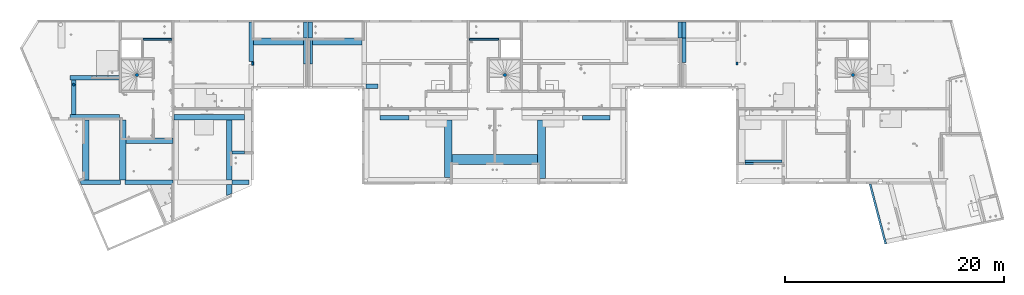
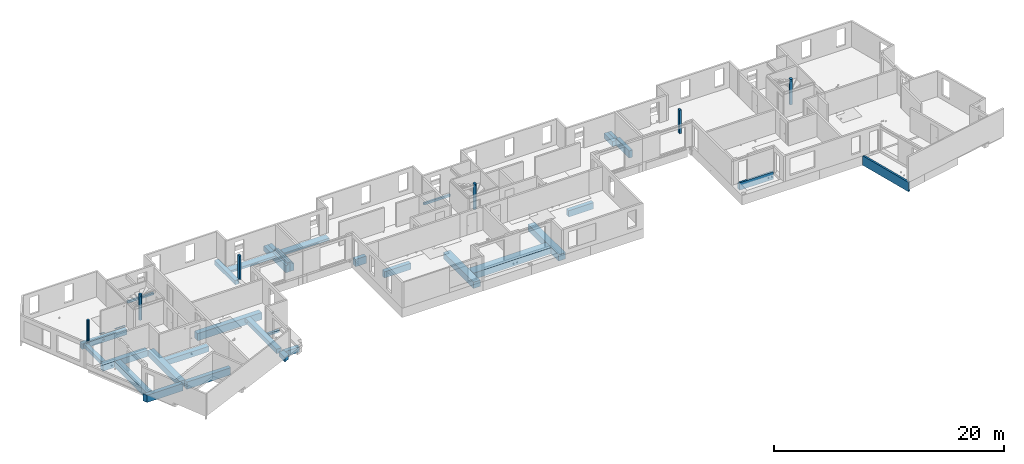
# One storey, part 1 of 34: 33 beams, 6 columns.
"""IFC2X3 building model written with IfcOpenShell, lengths in centimetres."""

from ifc_helpers import new_model, entity, si_unit, converted_unit, derived_unit, direction, frame, frame_2d, origin, origin_2d_with_axis, place, context, subcontext, project, spatial, polyline, rectangle, circle, outline, extrude, boolean, clip, halfspace, source, transform, mapped, material, material_list, type_object, type_shapes, element, save


model = new_model("IFC2X3")

# Units and contexts
model_context = context("Model", 3, precision=0.001, world=origin(), true_north=direction((6.12303176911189e-17, 1.0)))
body_context = subcontext(model_context, "Body", "Model", "MODEL_VIEW")
ifc_project = project(units=[si_unit("LENGTHUNIT", "METRE", prefix="CENTI"), si_unit("AREAUNIT", "SQUARE_METRE"), si_unit("VOLUMEUNIT", "CUBIC_METRE"), converted_unit("PLANEANGLEUNIT", "DEGREE", entity("IfcRatioMeasure", 0.0174532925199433), si_unit("PLANEANGLEUNIT", "RADIAN"), dimensions=[0, 0, 0, 0, 0, 0, 0]), si_unit("MASSUNIT", "GRAM", prefix="KILO"), derived_unit("MASSDENSITYUNIT", [(si_unit("MASSUNIT", "GRAM", prefix="KILO"), 1), (si_unit("LENGTHUNIT", "METRE"), -3)]), si_unit("TIMEUNIT", "SECOND"), si_unit("FREQUENCYUNIT", "HERTZ"), si_unit("THERMODYNAMICTEMPERATUREUNIT", "DEGREE_CELSIUS"), derived_unit("THERMALTRANSMITTANCEUNIT", [(si_unit("MASSUNIT", "GRAM", prefix="KILO"), 1), (si_unit("THERMODYNAMICTEMPERATUREUNIT", "KELVIN"), -1), (si_unit("TIMEUNIT", "SECOND"), -3)]), derived_unit("VOLUMETRICFLOWRATEUNIT", [(si_unit("LENGTHUNIT", "METRE"), 3), (si_unit("TIMEUNIT", "SECOND"), -1)]), si_unit("ELECTRICCURRENTUNIT", "AMPERE"), si_unit("ELECTRICVOLTAGEUNIT", "VOLT"), si_unit("POWERUNIT", "WATT"), si_unit("FORCEUNIT", "NEWTON"), si_unit("ILLUMINANCEUNIT", "LUX"), si_unit("LUMINOUSFLUXUNIT", "LUMEN"), si_unit("LUMINOUSINTENSITYUNIT", "CANDELA"), derived_unit("USERDEFINED", [(si_unit("MASSUNIT", "GRAM", prefix="KILO"), -1), (si_unit("LENGTHUNIT", "METRE"), -2), (si_unit("TIMEUNIT", "SECOND"), 3), (si_unit("LUMINOUSFLUXUNIT", "LUMEN"), 1)]), derived_unit("LINEARVELOCITYUNIT", [(si_unit("LENGTHUNIT", "METRE"), 1), (si_unit("TIMEUNIT", "SECOND"), -1)]), si_unit("PRESSUREUNIT", "PASCAL"), derived_unit("USERDEFINED", [(si_unit("LENGTHUNIT", "METRE"), -2), (si_unit("MASSUNIT", "GRAM", prefix="KILO"), 1), (si_unit("TIMEUNIT", "SECOND"), -2)])], contexts=[model_context])

# Site, building, storey
site_placement = place(None, origin())
site = spatial("IfcSite", under=ifc_project, at=site_placement, Name="Default", CompositionType="ELEMENT")
building_placement = place(site_placement, origin())
building = spatial("IfcBuilding", under=site, at=building_placement, Name="CAGE 03", CompositionType="ELEMENT")
storey_placement = place(building_placement, frame((0.0, 0.0, 340.0)))
storey = spatial("IfcBuildingStorey", under=building, at=storey_placement, Name="R+1", CompositionType="ELEMENT", Elevation=340.0)

# Columns
ifc_material_1 = material(Name="Béton, C25/30")
column_type_1 = type_object("IfcColumnType", Name="Ø25", PredefinedType="COLUMN", material=ifc_material_1)
shared_shape_1 = source(origin(), body_context, "Body", "SweptSolid", [
    extrude(circle(Radius=12.5000000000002, at=frame_2d((-6.00371824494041e-26, -8.66293703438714e-13), x_axis=(1.0, 0.0))), frame((3236.36582014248, 4704.16066607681, 560.0), z_axis=(0.0, 0.0, 1.0), x_axis=(-1.0, 0.0, 0.0)), (0.0, 0.0, 1.0), 30.0000000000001),
    extrude(circle(Radius=12.5000000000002, at=frame_2d((-6.00371824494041e-26, -8.66293703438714e-13), x_axis=(1.0, 0.0))), frame((3236.36582014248, 4704.16066607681, 340.0)), (0.0, 0.0, 1.0), 220.0),
])
type_shapes(column_type_1, [shared_shape_1])
column_1_placement = place(storey_placement, frame((0.0, 0.0, -340.0)))
element("IfcColumn", 1, at=column_1_placement, inside=storey, type_object=column_type_1, material=ifc_material_1, Name="BBGO-Poteau circ:Ø25", ObjectType="Ø25", context=body_context, shape_type="MappedRepresentation", body=[
    mapped(shared_shape_1, transform((0.0, 0.0, 0.0), scale=1.0)),
])
column_type_2 = type_object("IfcColumnType", Name="18x30", PredefinedType="COLUMN", material=ifc_material_1)
shared_shape_2 = source(origin(), body_context, "Body", "SweptSolid", [
    extrude(rectangle(XDim=30.0000000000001, YDim=18.0000000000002, at=origin_2d_with_axis()), frame((4869.36582014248, 4895.66066607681, 340.0), z_axis=(0.0, 0.0, 1.0), x_axis=(0.0, -1.0, 0.0)), (0.0, 0.0, 1.0), 250.0),
])
type_shapes(column_type_2, [shared_shape_2])
column_2_placement = place(storey_placement, frame((0.0, 0.0, -340.0)))
element("IfcColumn", 2, at=column_2_placement, inside=storey, type_object=column_type_2, material=ifc_material_1, Name="BBGO-Poteau rect:18x30", ObjectType="18x30", context=body_context, shape_type="MappedRepresentation", body=[
    mapped(shared_shape_2, transform((0.0, 0.0, 0.0), scale=1.0)),
])
column_type_3 = type_object("IfcColumnType", Name="18x30", PredefinedType="COLUMN", material=ifc_material_1)
shared_shape_3 = source(origin(), body_context, "Body", "SweptSolid", [
    extrude(rectangle(XDim=30.0000000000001, YDim=17.9999999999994, at=origin_2d_with_axis()), frame((9293.36582014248, 4895.66066607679, 560.0), z_axis=(0.0, 0.0, 1.0), x_axis=(0.0, -1.0, 0.0)), (0.0, 0.0, 1.0), 30.0000000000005),
    extrude(rectangle(XDim=30.0000000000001, YDim=17.9999999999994, at=origin_2d_with_axis()), frame((9293.36582014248, 4895.66066607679, 340.0), z_axis=(0.0, 0.0, 1.0), x_axis=(0.0, -1.0, 0.0)), (0.0, 0.0, 1.0), 219.999999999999),
])
type_shapes(column_type_3, [shared_shape_3])
column_3_placement = place(storey_placement, frame((0.0, 0.0, -340.0)))
element("IfcColumn", 3, at=column_3_placement, inside=storey, type_object=column_type_3, material=ifc_material_1, Name="BBGO-Poteau rect:18x30", ObjectType="18x30", context=body_context, shape_type="MappedRepresentation", body=[
    mapped(shared_shape_3, transform((0.0, 0.0, 0.0), scale=1.0)),
])
ifc_material_2 = material(Name="Béton, panneaux préfa 30/37")
column_type_4 = type_object("IfcColumnType", Name="Ø30", PredefinedType="COLUMN", material=ifc_material_2)
shared_shape_4 = source(origin(), body_context, "Body", "SweptSolid", [
    extrude(circle(Radius=15.0, at=origin_2d_with_axis()), frame((3813.36582014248, 4791.66066607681, 590.0), z_axis=(0.0, 0.0, 1.0), x_axis=(-1.0, 0.0, 0.0)), (0.0, 0.0, 1.0), 20.0),
    extrude(circle(Radius=15.0, at=origin_2d_with_axis()), frame((3813.36582014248, 4791.66066607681, 340.0)), (0.0, 0.0, 1.0), 250.0),
])
type_shapes(column_type_4, [shared_shape_4])
column_4_placement = place(storey_placement, frame((0.0, 0.0, -340.0)))
element("IfcColumn", 4, at=column_4_placement, inside=storey, type_object=column_type_4, material=ifc_material_2, Name="BBGO-Poteau circ:Ø30", ObjectType="Ø30", context=body_context, shape_type="MappedRepresentation", body=[
    mapped(shared_shape_4, transform((0.0, 0.0, 0.0), scale=1.0)),
])
column_type_5 = type_object("IfcColumnType", Name="Ø30", PredefinedType="COLUMN", material=ifc_material_2)
shared_shape_5 = source(origin(), body_context, "Body", "SweptSolid", [
    extrude(circle(Radius=15.0000000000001, at=origin_2d_with_axis()), frame((7172.36582014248, 4791.66066607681, 590.0), z_axis=(0.0, 0.0, 1.0), x_axis=(-1.0, 0.0, 0.0)), (0.0, 0.0, 1.0), 20.0),
    extrude(circle(Radius=15.0000000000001, at=origin_2d_with_axis()), frame((7172.36582014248, 4791.66066607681, 340.0)), (0.0, 0.0, 1.0), 250.0),
])
type_shapes(column_type_5, [shared_shape_5])
column_5_placement = place(storey_placement, frame((0.0, 0.0, -340.0)))
element("IfcColumn", 5, at=column_5_placement, inside=storey, type_object=column_type_5, material=ifc_material_2, Name="BBGO-Poteau circ:Ø30", ObjectType="Ø30", context=body_context, shape_type="MappedRepresentation", body=[
    mapped(shared_shape_5, transform((0.0, 0.0, 0.0), scale=1.0)),
])
column_type_6 = type_object("IfcColumnType", Name="Ø30", PredefinedType="COLUMN", material=ifc_material_2)
shared_shape_6 = source(origin(), body_context, "Body", "SweptSolid", [
    extrude(circle(Radius=15.0, at=origin_2d_with_axis()), frame((10349.3658201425, 4791.66066607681, 590.0), z_axis=(0.0, 0.0, 1.0), x_axis=(-1.0, 0.0, 0.0)), (0.0, 0.0, 1.0), 20.0),
    extrude(circle(Radius=15.0, at=origin_2d_with_axis()), frame((10349.3658201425, 4791.66066607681, 340.0)), (0.0, 0.0, 1.0), 250.0),
])
type_shapes(column_type_6, [shared_shape_6])
column_6_placement = place(storey_placement, frame((0.0, 0.0, -340.0)))
element("IfcColumn", 6, at=column_6_placement, inside=storey, type_object=column_type_6, material=ifc_material_2, Name="BBGO-Poteau circ:Ø30", ObjectType="Ø30", context=body_context, shape_type="MappedRepresentation", body=[
    mapped(shared_shape_6, transform((0.0, 0.0, 0.0), scale=1.0)),
])

# Beams
ifc_material_3 = material(Name="<Unnamed>")
ifc_material_list_1 = material_list([ifc_material_1, ifc_material_3])
ifc_material_list_2 = material_list([ifc_material_1, ifc_material_3])
beam_type_1 = type_object("IfcBeamType", Name="40x80ht", PredefinedType="BEAM", material=ifc_material_list_2)
shared_shape_7 = source(origin(), body_context, "Body", "SweptSolid", [
    extrude(outline(polyline([(-160.666666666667, -19.0), (-148.666666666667, -19.0), (-108.666666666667, -19.0), (289.333333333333, -19.0), (289.333333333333, 38.0), (-160.666666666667, 38.0), (-160.666666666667, -19.0)]), holes=[polyline([(42.786824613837, 2.92341958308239), (42.786824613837, 14.9234195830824), (64.7868246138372, 14.9234195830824), (64.7868246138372, 2.92341958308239), (42.786824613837, 2.92341958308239)])]), frame((3365.03248680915, 4747.16066607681, 298.0), z_axis=(0.0, 1.0, 0.0), x_axis=(1.0, 0.0, 0.0)), (0.0, 0.0, 1.0), 39.9999999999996),
    extrude(rectangle(XDim=102.000000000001, YDim=12.0000000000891, at=frame_2d((-2.16715534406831e-13, 4.33431068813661e-13), x_axis=(1.0, 0.0))), frame((3603.36582014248, 4781.16066607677, 335.0), z_axis=(0.0, 0.0, 1.0), x_axis=(-1.0, 0.0, 0.0)), (0.0, 0.0, 1.0), 4.99999999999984),
    extrude(rectangle(XDim=44.9999999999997, YDim=12.0000000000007, at=frame_2d((2.16715534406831e-13, 2.29567476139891e-11), x_axis=(1.0, 0.0))), frame((3424.86582014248, 4781.16066607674, 335.0)), (0.0, 0.0, 1.0), 4.99999999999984),
])
type_shapes(beam_type_1, [shared_shape_7])
beam_1_placement = place(storey_placement, frame((0.0, 0.0, -340.0)))
element("IfcBeam", 7, at=beam_1_placement, inside=storey, type_object=beam_type_1, material=ifc_material_list_1, Name="BBGO-Poutre rect:40x80ht", ObjectType="40x80ht", context=body_context, shape_type="MappedRepresentation", body=[
    mapped(shared_shape_7, transform((0.0, 0.0, 0.0), scale=1.0)),
])
beam_2_placement = place(storey_placement, frame((9324.36582014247, 3996.66066607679, 0.0)))
element("IfcBeam", 8, at=beam_2_placement, inside=storey, type_object=beam_type_1, material=ifc_material_1, Name="BBGO-Poutre rect:40x80ht", ObjectType="BBGO-Poutre rect:40x80ht", context=body_context, shape_type="SweptSolid", body=[
    extrude(outline(polyline([(-34.3333333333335, -19.3333333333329), (45.6666666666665, -19.3333333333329), (45.6666666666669, 20.6666666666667), (-11.3333333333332, 20.6666666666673), (-11.3333333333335, -1.33333333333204), (-34.3333333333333, -1.33333333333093), (-34.3333333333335, -19.3333333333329)])), frame((40.0, -0.666666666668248, -34.3333333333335), z_axis=(1.0, 0.0, 0.0), x_axis=(0.0, 0.0, -1.0)), (0.0, 0.0, 1.0), 339.0),
])
beam_type_2 = type_object("IfcBeamType", Name="BBGO-Poutre rect:50x90ht", PredefinedType="BEAM")
beam_3_placement = place(storey_placement, frame((3195.36582014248, 4406.66066607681, 0.0)))
element("IfcBeam", 9, at=beam_3_placement, inside=storey, type_object=beam_type_2, material=ifc_material_1, Name="BBGO-Poutre rect:50x90ht", ObjectType="BBGO-Poutre rect:50x90ht", context=body_context, shape_type="SweptSolid", body=[
    extrude(rectangle(XDim=67.0000000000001, YDim=50.0000000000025, at=origin_2d_with_axis()), frame((9.0, 0.0, -56.5000000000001), z_axis=(1.0, 0.0, 0.0), x_axis=(0.0, 0.0, -1.0)), (0.0, 0.0, 1.0), 450.000000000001),
])
beam_type_3 = type_object("IfcBeamType", Name="BBGO-Poutre rect:50x80ht", PredefinedType="BEAM")
beam_4_placement = place(storey_placement, frame((3684.36582014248, 4193.16066607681, 0.0)))
element("IfcBeam", 10, at=beam_4_placement, inside=storey, type_object=beam_type_3, material=ifc_material_1, Name="BBGO-Poutre rect:50x80ht", ObjectType="BBGO-Poutre rect:50x80ht", context=body_context, shape_type="SweptSolid", body=[
    extrude(rectangle(XDim=57.0000000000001, YDim=50.0000000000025, at=origin_2d_with_axis()), frame((30.0, 0.0, -51.5000000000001), z_axis=(1.0, 0.0, 0.0), x_axis=(0.0, 0.0, -1.0)), (0.0, 0.0, 1.0), 428.999999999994),
])
beam_type_4 = type_object("IfcBeamType", Name="BBGO-Poutre rect:60x90ht", PredefinedType="BEAM")
beam_5_placement = place(storey_placement, frame((3684.36582014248, 3831.66066607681, 0.0), z_axis=(0.0, 0.0, 1.0), x_axis=(0.0, 1.0, 0.0)))
element("IfcBeam", 11, at=beam_5_placement, inside=storey, type_object=beam_type_4, material=ifc_material_1, Name="BBGO-Poutre rect:60x90ht", ObjectType="BBGO-Poutre rect:60x90ht", context=body_context, shape_type="SweptSolid", body=[
    extrude(rectangle(XDim=67.0000000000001, YDim=60.0000000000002, at=origin_2d_with_axis()), frame((0.0, 0.0, -56.5000000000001), z_axis=(1.0, 0.0, 0.0), x_axis=(0.0, 0.0, -1.0)), (0.0, 0.0, 1.0), 550.000000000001),
])
beam_6_placement = place(storey_placement, frame((3348.86582014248, 3824.16066607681, 0.0), z_axis=(0.0, 0.0, 1.0), x_axis=(0.0, 1.0, 0.0)))
element("IfcBeam", 12, at=beam_6_placement, inside=storey, type_object=beam_type_4, material=ifc_material_1, Name="BBGO-Poutre rect:60x90ht", ObjectType="BBGO-Poutre rect:60x90ht", context=body_context, shape_type="SweptSolid", body=[
    extrude(rectangle(XDim=67.0000000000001, YDim=60.0000000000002, at=origin_2d_with_axis()), frame((7.49999999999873, 0.0, -56.5000000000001), z_axis=(1.0, 0.0, 0.0), x_axis=(0.0, 0.0, -1.0)), (0.0, 0.0, 1.0), 550.000000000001),
])
beam_type_5 = type_object("IfcBeamType", Name="BBGO-Poutre rect:40x100ht", PredefinedType="BEAM")
beam_7_placement = place(storey_placement, frame((3684.36582014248, 3811.66066607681, 0.0)))
element("IfcBeam", 13, at=beam_7_placement, inside=storey, type_object=beam_type_5, material=ifc_material_1, Name="BBGO-Poutre rect:40x100ht", ObjectType="BBGO-Poutre rect:40x100ht", context=body_context, shape_type="SweptSolid", body=[
    extrude(rectangle(XDim=77.0000000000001, YDim=40.0000000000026, at=frame_2d((0.0, -4.33431068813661e-13), x_axis=(1.0, 0.0))), frame((20.0, 0.0, -61.5000000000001), z_axis=(1.0, 0.0, 0.0), x_axis=(0.0, 0.0, -1.0)), (0.0, 0.0, 1.0), 440.5),
])
beam_8_placement = place(storey_placement, frame((3286.97456487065, 3811.66066607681, 0.0)))
element("IfcBeam", 14, at=beam_8_placement, inside=storey, type_object=beam_type_5, material=ifc_material_1, Name="BBGO-Poutre rect:40x100ht", ObjectType="BBGO-Poutre rect:40x100ht", context=body_context, shape_type="Clipping", body=[
    clip(extrude(rectangle(XDim=77.0000000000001, YDim=40.0000000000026, at=frame_2d((0.0, -6.50146603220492e-13), x_axis=(1.0, 0.0))), frame((1.15265536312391, 0.0, -61.5000000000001), z_axis=(1.0, 0.0, 0.0), x_axis=(0.0, 0.0, -1.0)), (0.0, 0.0, 1.0), 376.238599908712), halfspace(frame((-239.620117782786, 576.462366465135, -379.0), z_axis=(-0.917772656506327, -0.397106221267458, 0.0), x_axis=(-0.397106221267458, 0.917772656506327, 0.0)), False)),
])
beam_9_placement = place(storey_placement, frame((5395.36582014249, 4891.66066607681, 0.0), z_axis=(0.0, 0.0, 1.0), x_axis=(0.0, 1.0, 0.0)))
element("IfcBeam", 15, at=beam_9_placement, inside=storey, type_object=beam_type_5, material=ifc_material_1, Name="BBGO-Poutre rect:40x100ht", ObjectType="BBGO-Poutre rect:40x100ht", context=body_context, shape_type="SweptSolid", body=[
    extrude(outline(polyline([(-18.0, -20.6666666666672), (59.0, -20.6666666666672), (59.0, 19.3333333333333), (-41.0, 19.3333333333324), (-41.0, 1.33333333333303), (-18.0, 1.3333333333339), (-18.0, -20.6666666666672)])), frame((0.0, 0.666666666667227, -41.0), z_axis=(1.0, 0.0, 0.0), x_axis=(0.0, 0.0, -1.0)), (0.0, 0.0, 1.0), 237.000000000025),
])
beam_10_placement = place(storey_placement, frame((5353.36582014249, 4891.66066607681, 0.0), z_axis=(0.0, 0.0, 1.0), x_axis=(0.0, 1.0, 0.0)))
element("IfcBeam", 16, at=beam_10_placement, inside=storey, type_object=beam_type_5, material=ifc_material_1, Name="BBGO-Poutre rect:40x100ht", ObjectType="BBGO-Poutre rect:40x100ht", context=body_context, shape_type="SweptSolid", body=[
    extrude(outline(polyline([(-41.0, -19.333333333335), (59.0, -19.333333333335), (59.0, 20.6666666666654), (-18.0, 20.6666666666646), (-18.0, -1.33333333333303), (-41.0, -1.33333333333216), (-41.0, -19.333333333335)])), frame((0.0, -0.666666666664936, -41.0), z_axis=(1.0, 0.0, 0.0), x_axis=(0.0, 0.0, -1.0)), (0.0, 0.0, 1.0), 237.000000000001),
])
beam_11_placement = place(storey_placement, frame((5870.36582014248, 4688.6606660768, 0.0)))
element("IfcBeam", 17, at=beam_11_placement, inside=storey, type_object=beam_type_5, material=ifc_material_1, Name="BBGO-Poutre rect:40x100ht", ObjectType="BBGO-Poutre rect:40x100ht", context=body_context, shape_type="SweptSolid", body=[
    extrude(rectangle(XDim=77.0000000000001, YDim=39.9999999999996, at=frame_2d((0.0, 4.33431068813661e-13), x_axis=(1.0, 0.0))), frame((35.0, 0.0, -61.5000000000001), z_axis=(1.0, 0.0, 0.0), x_axis=(0.0, 0.0, -1.0)), (0.0, 0.0, 1.0), 108.000000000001),
])
beam_type_6 = type_object("IfcBeamType", Name="BBGO-Poutre rect:40x60ht", PredefinedType="BEAM")
beam_12_placement = place(storey_placement, frame((3236.36582014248, 4406.66066607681, 0.0), z_axis=(0.0, 0.0, 1.0), x_axis=(0.0, 1.0, 0.0)))
element("IfcBeam", 18, at=beam_12_placement, inside=storey, type_object=beam_type_6, material=ifc_material_1, Name="BBGO-Poutre rect:40x60ht", ObjectType="BBGO-Poutre rect:40x60ht", context=body_context, shape_type="SweptSolid", body=[
    extrude(rectangle(XDim=37.0000000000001, YDim=40.0, at=frame_2d((0.0, -2.16715534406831e-13), x_axis=(1.0, 0.0))), frame((25.0, 0.0, -41.5000000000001), z_axis=(1.0, 0.0, 0.0), x_axis=(0.0, 0.0, -1.0)), (0.0, 0.0, 1.0), 315.500000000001),
])
beam_type_7 = type_object("IfcBeamType", Name="BBGO-Poutre rect:18x45ht", PredefinedType="BEAM")
beam_13_placement = place(storey_placement, frame((3861.36582014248, 5119.66066607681, 0.0)))
element("IfcBeam", 19, at=beam_13_placement, inside=storey, type_object=beam_type_7, material=ifc_material_1, Name="BBGO-Poutre rect:18x45ht", ObjectType="BBGO-Poutre rect:18x45ht", context=body_context, shape_type="SweptSolid", body=[
    extrude(rectangle(XDim=22.0000000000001, YDim=18.0000000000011, at=frame_2d((2.66453525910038e-14, 4.33431068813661e-13), x_axis=(1.0, 0.0))), frame((9.0, 0.0, -34.0), z_axis=(1.0, 0.0, 0.0), x_axis=(0.0, 0.0, -1.0)), (0.0, 0.0, 1.0), 263.999999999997),
])
beam_14_placement = place(storey_placement, frame((6840.36582014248, 5119.6606660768, 0.0)))
element("IfcBeam", 20, at=beam_14_placement, inside=storey, type_object=beam_type_7, material=ifc_material_1, Name="BBGO-Poutre rect:18x45ht", ObjectType="BBGO-Poutre rect:18x45ht", context=body_context, shape_type="SweptSolid", body=[
    extrude(rectangle(XDim=22.0000000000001, YDim=18.0000000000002, at=frame_2d((2.66453525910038e-14, 4.32542890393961e-13), x_axis=(1.0, 0.0))), frame((9.0, 0.0, -34.0), z_axis=(1.0, 0.0, 0.0), x_axis=(0.0, 0.0, -1.0)), (0.0, 0.0, 1.0), 266.000000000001),
])
beam_type_8 = type_object("IfcBeamType", Name="BBGO-Poutre rect:50x100ht", PredefinedType="BEAM")
beam_15_placement = place(storey_placement, frame((4143.36582014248, 4406.66066607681, 0.0)))
element("IfcBeam", 21, at=beam_15_placement, inside=storey, type_object=beam_type_8, material=ifc_material_1, Name="BBGO-Poutre rect:50x100ht", ObjectType="BBGO-Poutre rect:50x100ht", context=body_context, shape_type="SweptSolid", body=[
    extrude(rectangle(XDim=77.0000000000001, YDim=50.0000000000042, at=frame_2d((0.0, -8.66862137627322e-13), x_axis=(1.0, 0.0))), frame((9.0, 0.0, -61.5000000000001), z_axis=(1.0, 0.0, 0.0), x_axis=(0.0, 0.0, -1.0)), (0.0, 0.0, 1.0), 646.000000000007),
])
beam_type_9 = type_object("IfcBeamType", Name="BBGO-Poutre rect:50x70ht", PredefinedType="BEAM")
beam_16_placement = place(storey_placement, frame((4655.36582014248, 3831.66066607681, 0.0), z_axis=(0.0, 0.0, 1.0), x_axis=(0.0, 1.0, 0.0)))
element("IfcBeam", 22, at=beam_16_placement, inside=storey, type_object=beam_type_9, material=ifc_material_1, Name="BBGO-Poutre rect:50x70ht", ObjectType="BBGO-Poutre rect:50x70ht", context=body_context, shape_type="CSG", body=[
    boolean("DIFFERENCE", extrude(rectangle(XDim=47.0000000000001, YDim=49.9999999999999, at=frame_2d((4.33431068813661e-13, 0.0), x_axis=(0.0, 1.0))), frame((0.0, 0.0, -46.5000000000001), z_axis=(1.0, 0.0, 0.0), x_axis=(0.0, 1.0, 0.0)), (0.0, 0.0, 1.0), 550.000000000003), extrude(circle(Radius=5.0, at=origin_2d_with_axis()), frame((512.0, -25.0, -50.0), z_axis=(0.0, 1.0, 0.0), x_axis=(-1.0, 0.0, 0.0)), (0.0, 0.0, 1.0), 49.9999999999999)),
])
beam_type_10 = type_object("IfcBeamType", Name="BBGO-Poutre rect:25x45ht", PredefinedType="BEAM")
beam_17_placement = place(storey_placement, frame((4655.36582014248, 4084.66066607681, 0.0)))
element("IfcBeam", 23, at=beam_17_placement, inside=storey, type_object=beam_type_10, material=ifc_material_1, Name="BBGO-Poutre rect:25x45ht", ObjectType="BBGO-Poutre rect:25x45ht", context=body_context, shape_type="SweptSolid", body=[
    extrude(rectangle(XDim=22.0000000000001, YDim=25.0000000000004, at=frame_2d((2.66453525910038e-14, -4.33431068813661e-13), x_axis=(1.0, 0.0))), frame((25.0, 0.0, -34.0), z_axis=(1.0, 0.0, 0.0), x_axis=(0.0, 0.0, -1.0)), (0.0, 0.0, 1.0), 118.000000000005),
])
beam_type_11 = type_object("IfcBeamType", Name="50x70ht", PredefinedType="BEAM", material=ifc_material_1)
shared_shape_8 = source(origin(), body_context, "Body", "SweptSolid", [
    extrude(outline(polyline([(-1.4995117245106, -0.362720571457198), (-0.173542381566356, -0.362720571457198), (0.836527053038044, 0.0773933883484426), (0.836527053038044, 0.648047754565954), (-1.4995117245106, -0.362720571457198)])), frame((4679.52929308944, 3676.75997980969, 270.0)), (0.0, 0.0, 1.0), 70.0),
    extrude(outline(polyline([(-35.373843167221, -25.0), (46.1909616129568, -25.0), (46.1909616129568, 25.0), (-57.0080800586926, 25.0), (-35.373843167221, -25.0)])), frame((4655.36582014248, 3745.46970446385, 270.0), z_axis=(0.0, 0.0, 1.0), x_axis=(0.0, 1.0, 0.0)), (0.0, 0.0, 1.0), 47.0000000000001),
])
type_shapes(beam_type_11, [shared_shape_8])
beam_18_placement = place(storey_placement, frame((0.0, 0.0, -340.0)))
element("IfcBeam", 24, at=beam_18_placement, inside=storey, type_object=beam_type_11, material=ifc_material_1, Name="BBGO-Poutre rect:50x70ht", ObjectType="50x70ht", context=body_context, shape_type="MappedRepresentation", body=[
    mapped(shared_shape_8, transform((0.0, 0.0, 0.0), scale=1.0)),
])
beam_type_12 = type_object("IfcBeamType", Name="BBGO-Poutre rect:40x70ht", PredefinedType="BEAM")
beam_19_placement = place(storey_placement, frame((4858.36582014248, 4916.66066607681, 0.0), z_axis=(0.0, 0.0, 1.0), x_axis=(0.0, 1.0, 0.0)))
element("IfcBeam", 25, at=beam_19_placement, inside=storey, type_object=beam_type_12, material=ifc_material_1, Name="BBGO-Poutre rect:40x70ht", ObjectType="BBGO-Poutre rect:40x70ht", context=body_context, shape_type="SweptSolid", body=[
    extrude(rectangle(XDim=47.0000000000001, YDim=39.9999999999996, at=frame_2d((0.0, 4.33431068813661e-13), x_axis=(1.0, 0.0))), frame((0.0, 0.0, -46.5000000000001), z_axis=(1.0, 0.0, 0.0), x_axis=(0.0, 0.0, -1.0)), (0.0, 0.0, 1.0), 359.000000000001),
])
beam_type_13 = type_object("IfcBeamType", Name="BBGO-Poutre rect:65x45ht", PredefinedType="BEAM")
beam_20_placement = place(storey_placement, frame((4858.36582014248, 5096.16066607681, 0.0)))
element("IfcBeam", 26, at=beam_20_placement, inside=storey, type_object=beam_type_13, material=ifc_material_1, Name="BBGO-Poutre rect:65x45ht", ObjectType="BBGO-Poutre rect:65x45ht", context=body_context, shape_type="SweptSolid", body=[
    extrude(rectangle(XDim=22.0000000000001, YDim=65.0000000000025, at=frame_2d((2.66453525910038e-14, 0.0), x_axis=(1.0, 0.0))), frame((20.0, 0.0, -34.0), z_axis=(1.0, 0.0, 0.0), x_axis=(0.0, 0.0, -1.0)), (0.0, 0.0, 1.0), 455.000000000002),
])
beam_21_placement = place(storey_placement, frame((5395.36582014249, 5096.16066607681, 0.0)))
element("IfcBeam", 27, at=beam_21_placement, inside=storey, type_object=beam_type_13, material=ifc_material_1, Name="BBGO-Poutre rect:65x45ht", ObjectType="BBGO-Poutre rect:65x45ht", context=body_context, shape_type="SweptSolid", body=[
    extrude(rectangle(XDim=22.0000000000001, YDim=65.0000000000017, at=frame_2d((2.66453525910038e-14, 4.33431068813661e-13), x_axis=(1.0, 0.0))), frame((20.0, 0.0, -34.0), z_axis=(1.0, 0.0, 0.0), x_axis=(0.0, 0.0, -1.0)), (0.0, 0.0, 1.0), 454.999999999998),
])
beam_type_14 = type_object("IfcBeamType", Name="BBGO-Poutre rect:40x90ht", PredefinedType="BEAM")
beam_22_placement = place(storey_placement, frame((6022.36582014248, 4401.6606660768, 0.0)))
element("IfcBeam", 28, at=beam_22_placement, inside=storey, type_object=beam_type_14, material=ifc_material_1, Name="BBGO-Poutre rect:40x90ht", ObjectType="BBGO-Poutre rect:40x90ht", context=body_context, shape_type="SweptSolid", body=[
    extrude(rectangle(XDim=67.0000000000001, YDim=40.0000000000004, at=frame_2d((0.0, 4.33431068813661e-13), x_axis=(1.0, 0.0))), frame((9.0, 0.0, -56.5000000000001), z_axis=(1.0, 0.0, 0.0), x_axis=(0.0, 0.0, -1.0)), (0.0, 0.0, 1.0), 265.0),
])
beam_23_placement = place(storey_placement, frame((7866.36582014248, 4401.6606660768, 0.0)))
element("IfcBeam", 29, at=beam_23_placement, inside=storey, type_object=beam_type_14, material=ifc_material_1, Name="BBGO-Poutre rect:40x90ht", ObjectType="BBGO-Poutre rect:40x90ht", context=body_context, shape_type="SweptSolid", body=[
    extrude(rectangle(XDim=67.0000000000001, YDim=40.0000000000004, at=frame_2d((0.0, 4.33431068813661e-13), x_axis=(1.0, 0.0))), frame((15.0, 0.0, -56.5000000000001), z_axis=(1.0, 0.0, 0.0), x_axis=(0.0, 0.0, -1.0)), (0.0, 0.0, 1.0), 249.999999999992),
])
beam_type_15 = type_object("IfcBeamType", Name="BBGO-Poutre rect:70x90ht", PredefinedType="BEAM")
beam_24_placement = place(storey_placement, frame((6656.36582014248, 3826.6606660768, 0.0), z_axis=(0.0, 0.0, 1.0), x_axis=(0.0, 1.0, 0.0)))
element("IfcBeam", 30, at=beam_24_placement, inside=storey, type_object=beam_type_15, material=ifc_material_1, Name="BBGO-Poutre rect:70x90ht", ObjectType="BBGO-Poutre rect:70x90ht", context=body_context, shape_type="SweptSolid", body=[
    extrude(rectangle(XDim=67.0000000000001, YDim=69.9999999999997, at=origin_2d_with_axis()), frame((30.0, 0.0, -56.5000000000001), z_axis=(1.0, 0.0, 0.0), x_axis=(0.0, 0.0, -1.0)), (0.0, 0.0, 1.0), 524.999999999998),
])
beam_25_placement = place(storey_placement, frame((7506.36582014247, 3821.6606660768, 0.0), z_axis=(0.0, 0.0, 1.0), x_axis=(0.0, 1.0, 0.0)))
element("IfcBeam", 31, at=beam_25_placement, inside=storey, type_object=beam_type_15, material=ifc_material_1, Name="BBGO-Poutre rect:70x90ht", ObjectType="BBGO-Poutre rect:70x90ht", context=body_context, shape_type="SweptSolid", body=[
    extrude(rectangle(XDim=67.0000000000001, YDim=69.9999999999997, at=origin_2d_with_axis()), frame((25.0, 0.0, -56.5000000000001), z_axis=(1.0, 0.0, 0.0), x_axis=(0.0, 0.0, -1.0)), (0.0, 0.0, 1.0), 534.999999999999),
])
beam_type_16 = type_object("IfcBeamType", Name="BBGO-Poutre rect:90x90ht", PredefinedType="BEAM")
beam_26_placement = place(storey_placement, frame((6656.36582014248, 4021.6606660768, 0.0)))
element("IfcBeam", 32, at=beam_26_placement, inside=storey, type_object=beam_type_16, material=ifc_material_1, Name="BBGO-Poutre rect:90x90ht", ObjectType="BBGO-Poutre rect:90x90ht", context=body_context, shape_type="SweptSolid", body=[
    extrude(rectangle(XDim=67.0000000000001, YDim=90.0000000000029, at=frame_2d((0.0, 4.33431068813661e-13), x_axis=(1.0, 0.0))), frame((35.0, 0.0, -56.5000000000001), z_axis=(1.0, 0.0, 0.0), x_axis=(0.0, 0.0, -1.0)), (0.0, 0.0, 1.0), 779.999999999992),
])
beam_type_17 = type_object("IfcBeamType", Name="BBGO-Poutre rect:35x100ht", PredefinedType="BEAM")
beam_27_placement = place(storey_placement, frame((8806.86582014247, 4895.66066607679, 0.0), z_axis=(0.0, 0.0, 1.0), x_axis=(0.0, 1.0, 0.0)))
element("IfcBeam", 33, at=beam_27_placement, inside=storey, type_object=beam_type_17, material=ifc_material_1, Name="BBGO-Poutre rect:35x100ht", ObjectType="BBGO-Poutre rect:35x100ht", context=body_context, shape_type="SweptSolid", body=[
    extrude(rectangle(XDim=77.0000000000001, YDim=34.999999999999, at=frame_2d((0.0, 8.66862137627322e-13), x_axis=(1.0, 0.0))), frame((9.0, 0.0, -61.5000000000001), z_axis=(1.0, 0.0, 0.0), x_axis=(0.0, 0.0, -1.0)), (0.0, 0.0, 1.0), 224.000000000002),
])
beam_type_18 = type_object("IfcBeamType", Name="BBGO-Poutre rect:18x100ht", PredefinedType="BEAM")
beam_28_placement = place(storey_placement, frame((10503.9757902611, 3805.66066607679, 0.0), z_axis=(0.0, 0.0, 1.0), x_axis=(0.252679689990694, -0.967549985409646, 0.0)))
element("IfcBeam", 34, at=beam_28_placement, inside=storey, type_object=beam_type_18, material=ifc_material_1, Name="BBGO-Poutre rect:18x100ht", ObjectType="BBGO-Poutre rect:18x100ht", context=body_context, shape_type="Clipping", body=[
    clip(extrude(rectangle(XDim=100.0, YDim=17.9999999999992, at=frame_2d((0.0, 8.38440428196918e-13), x_axis=(1.0, 0.0))), frame((6.95145769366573, 0.0, -50.0), z_axis=(1.0, 0.0, 0.0), x_axis=(0.0, 0.0, -1.0)), (0.0, 0.0, 1.0), 567.755227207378), halfspace(frame((33.3164324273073, 91.9556047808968, -50.0), z_axis=(-0.967549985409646, 0.252679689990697, 0.0), x_axis=(0.0, 0.0, -1.0)), False)),
])
beam_type_19 = type_object("IfcBeamType", Name="BBGO-Poutre rect:40x75ht", PredefinedType="BEAM")
beam_29_placement = place(storey_placement, frame((4681.36582014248, 3811.66066607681, 0.0)))
element("IfcBeam", 35, at=beam_29_placement, inside=storey, type_object=beam_type_19, material=ifc_material_1, Name="BBGO-Poutre rect:40x75ht", ObjectType="BBGO-Poutre rect:40x75ht", context=body_context, shape_type="SweptSolid", body=[
    extrude(rectangle(XDim=55.0000000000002, YDim=39.9999999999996, at=frame_2d((-1.4210854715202e-14, 4.33431068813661e-13), x_axis=(1.0, 0.0))), frame((0.0, 0.0, -72.5000000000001), z_axis=(1.0, 0.0, 0.0), x_axis=(0.0, 0.0, -1.0)), (0.0, 0.0, 1.0), 157.000000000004),
])
beam_30_placement = place(storey_placement, frame((5353.36582014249, 5096.16066607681, 0.0), z_axis=(0.0, 0.0, 1.0), x_axis=(0.0, 1.0, 0.0)))
element("IfcBeam", 36, at=beam_30_placement, inside=storey, type_object=beam_type_19, material=ifc_material_1, Name="BBGO-Poutre rect:40x75ht", ObjectType="BBGO-Poutre rect:40x75ht", context=body_context, shape_type="SweptSolid", body=[
    extrude(rectangle(XDim=55.0000000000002, YDim=39.9999999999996, at=frame_2d((-1.24344978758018e-14, -4.33431068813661e-13), x_axis=(1.0, 0.0))), frame((32.4999999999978, 0.0, -72.5000000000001), z_axis=(1.0, 0.0, 0.0), x_axis=(0.0, 0.0, -1.0)), (0.0, 0.0, 1.0), 147.000000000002),
])
beam_31_placement = place(storey_placement, frame((5395.36582014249, 5096.16066607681, 0.0), z_axis=(0.0, 0.0, 1.0), x_axis=(0.0, 1.0, 0.0)))
element("IfcBeam", 37, at=beam_31_placement, inside=storey, type_object=beam_type_19, material=ifc_material_1, Name="BBGO-Poutre rect:40x75ht", ObjectType="BBGO-Poutre rect:40x75ht", context=body_context, shape_type="SweptSolid", body=[
    extrude(rectangle(XDim=55.0000000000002, YDim=39.9999999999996, at=frame_2d((-1.24344978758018e-14, 4.33431068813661e-13), x_axis=(1.0, 0.0))), frame((32.4999999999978, 0.0, -72.5000000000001), z_axis=(1.0, 0.0, 0.0), x_axis=(0.0, 0.0, -1.0)), (0.0, 0.0, 1.0), 147.000000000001),
])
beam_type_20 = type_object("IfcBeamType", Name="BBGO-Poutre rect:35x75ht", PredefinedType="BEAM")
beam_32_placement = place(storey_placement, frame((8769.86582014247, 5128.6606660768, 0.0), z_axis=(0.0, 0.0, 1.0), x_axis=(0.0, 1.0, 0.0)))
element("IfcBeam", 38, at=beam_32_placement, inside=storey, type_object=beam_type_20, material=ifc_material_1, Name="BBGO-Poutre rect:35x75ht", ObjectType="BBGO-Poutre rect:35x75ht", context=body_context, shape_type="SweptSolid", body=[
    extrude(rectangle(XDim=55.0000000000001, YDim=35.0000000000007, at=frame_2d((-1.24344978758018e-14, -8.66862137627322e-13), x_axis=(1.0, 0.0))), frame((0.0, 0.0, -72.5000000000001), z_axis=(1.0, 0.0, 0.0), x_axis=(0.0, 0.0, -1.0)), (0.0, 0.0, 1.0), 147.000000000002),
])
beam_33_placement = place(storey_placement, frame((8806.86582014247, 5128.6606660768, 0.0), z_axis=(0.0, 0.0, 1.0), x_axis=(0.0, 1.0, 0.0)))
element("IfcBeam", 39, at=beam_33_placement, inside=storey, type_object=beam_type_20, material=ifc_material_1, Name="BBGO-Poutre rect:35x75ht", ObjectType="BBGO-Poutre rect:35x75ht", context=body_context, shape_type="SweptSolid", body=[
    extrude(rectangle(XDim=55.0000000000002, YDim=34.999999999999, at=frame_2d((4.08562073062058e-14, 8.66862137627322e-13), x_axis=(1.0, 0.0))), frame((0.0, 0.0, -72.5), z_axis=(1.0, 0.0, 0.0), x_axis=(0.0, 0.0, -1.0)), (0.0, 0.0, 1.0), 147.0),
])

save(model, "model.ifc")
